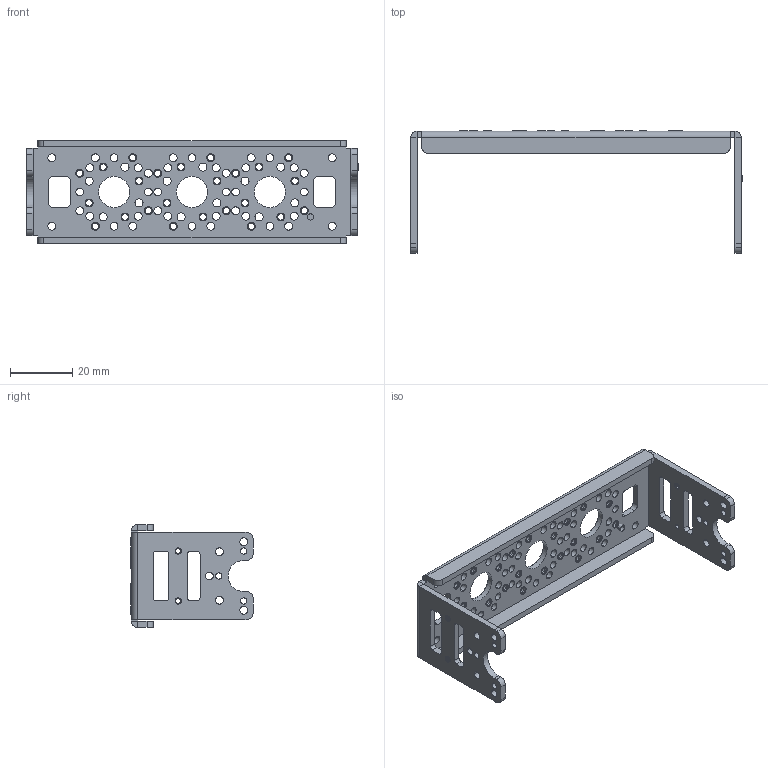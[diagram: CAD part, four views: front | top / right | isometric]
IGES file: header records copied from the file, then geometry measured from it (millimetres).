
Start section:  PTC IGES file: fr08_h110.igs
Global section: file name: fr08_h110.igs; native system: Pro/ENGINEER by Parametric Technology Corporation; preprocessor: 2009060; author: JANG WOOK; organization: Unknown; date: 20100202.165246; units: millimetre
Bounding box: 106.49 x 39.15 x 33 mm (x, y, z)
Surface area: 15542.3 mm2 (no closed solid volume)
Topology: 0 solids, 0 shells, 478 faces, 3804 edges, 4532 vertices
Faces by surface type: revolution 410, bspline 68
